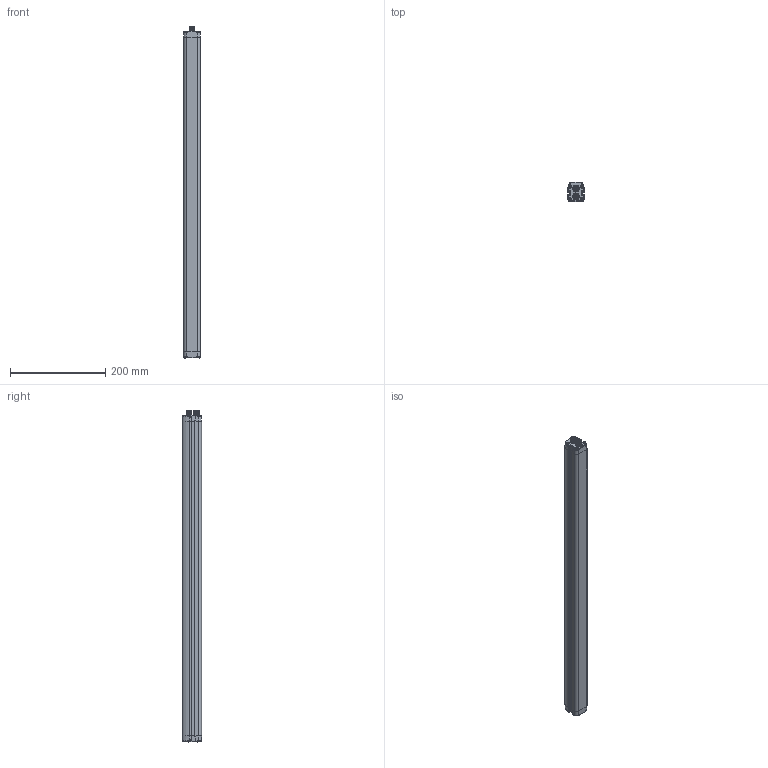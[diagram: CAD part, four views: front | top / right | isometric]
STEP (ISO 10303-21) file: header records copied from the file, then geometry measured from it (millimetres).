
FILE_DESCRIPTION(/* description */ (''),/* implementation_level */ '2;1');
FILE_NAME(/* name */ 'AP030415_00.stp',/* time_stamp */ '2021-04-26T16:30:28+02:00',/* author */ (''),/* organization */ (''),/* preprocessor_version */ 'ST-DEVELOPER v16.7',/* originating_system */ 'SIEMENS PLM Software NX 1946',/* authorisation */ '');
FILE_SCHEMA (('AUTOMOTIVE_DESIGN { 1 0 10303 214 3 1 1 1 }'));
Length unit declared in the file: millimetre
Products named in the file (1): FGut20B8A3966a1c
Bounding box: 35 x 40 x 697 mm (x, y, z)
Volume: 836578.2 mm3; surface area: 134114.5 mm2
Topology: 1 solids, 5 shells, 608 faces, 1583 edges, 1008 vertices
Faces by surface type: plane 216, cylinder 186, bspline 68, cone 62, torus 60, revolution 16
Full cylindrical faces by diameter (mm): 0.8 x8, 1 x4, 3.5 x4, 5 x8, 8.3 x1, 8.45 x1, 10.45 x1, 10.5 x1, 10.55 x2, 12 x14, 14 x2, 14.5 x2
Entity records: 27514 total; most frequent: CARTESIAN_POINT 10011, ORIENTED_EDGE 3046, DIRECTION 2630, EDGE_CURVE 1523, VERTEX_POINT 1000, AXIS2_PLACEMENT_3D 975, EDGE_LOOP 679, LINE 664
